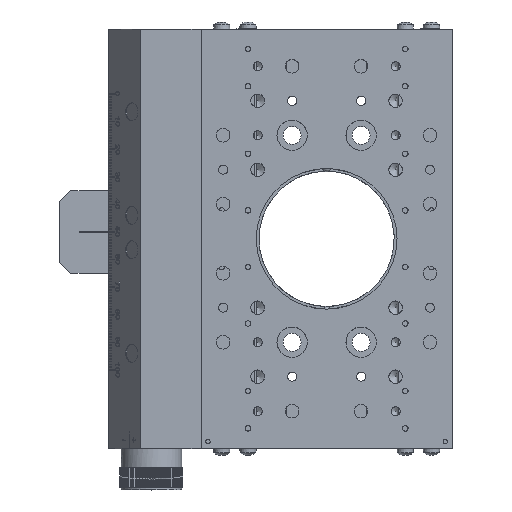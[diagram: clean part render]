
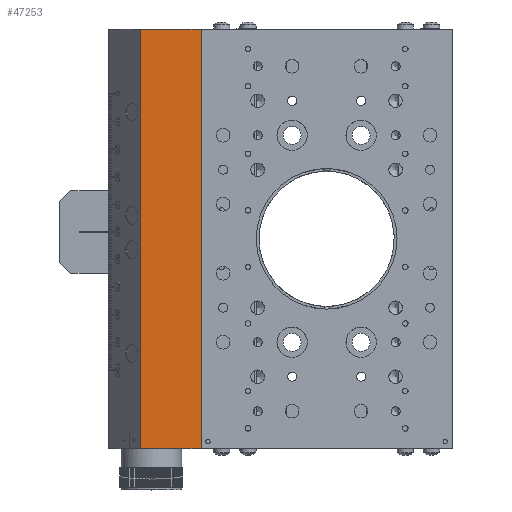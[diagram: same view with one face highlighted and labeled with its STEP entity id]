
A CAD part, top view. The second image highlights one B-rep face of the part: STEP entity #47253.
In plain terms, the highlighted planar face has unit normal (0, 0, 1).
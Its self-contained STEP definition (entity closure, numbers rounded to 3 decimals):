
#2500=LINE($,#65618,#6474);
#3869=LINE($,#73583,#7843);
#4739=LINE($,#75339,#8713);
#4740=LINE($,#75340,#8714);
#6474=VECTOR($,#53313,21.947);
#7843=VECTOR($,#56542,152.);
#8713=VECTOR($,#58306,21.947);
#8714=VECTOR($,#58307,152.);
#10748=PLANE($,#50173);
#13663=FACE_OUTER_BOUND($,#16397,.T.);
#16397=EDGE_LOOP($,(#38039,#38040,#38041,#38042));
#20416=VERTEX_POINT($,#65615);
#20417=VERTEX_POINT($,#65617);
#21904=VERTEX_POINT($,#73582);
#22343=VERTEX_POINT($,#75338);
#24943=EDGE_CURVE($,#20416,#20417,#2500,.T.);
#27113=EDGE_CURVE($,#20417,#21904,#3869,.T.);
#27983=EDGE_CURVE($,#22343,#21904,#4739,.T.);
#27984=EDGE_CURVE($,#22343,#20416,#4740,.T.);
#38039=ORIENTED_EDGE($,*,*,#27983,.T.);
#38040=ORIENTED_EDGE($,*,*,#27113,.F.);
#38041=ORIENTED_EDGE($,*,*,#24943,.F.);
#38042=ORIENTED_EDGE($,*,*,#27984,.F.);
#47253=ADVANCED_FACE($,(#13663),#10748,.T.);
#50173=AXIS2_PLACEMENT_3D($,#75337,#58304,#58305);
#53313=DIRECTION($,(-1.,0.,0.));
#56542=DIRECTION($,(0.,1.,0.));
#58304=DIRECTION('center_axis',(0.,0.,
1.));
#58305=DIRECTION('ref_axis',(0.,1.,0.));
#58306=DIRECTION($,(-1.,0.,0.));
#58307=DIRECTION($,(0.,-1.,0.));
#65615=CARTESIAN_POINT('',(-41.324,-152.,20.728));
#65617=CARTESIAN_POINT('',(-63.271,-152.,20.728));
#65618=CARTESIAN_POINT($,(-41.324,-152.,20.728));
#73582=CARTESIAN_POINT('',(-63.271,0.,20.728));
#73583=CARTESIAN_POINT($,(-63.271,-152.,20.728));
#75337=CARTESIAN_POINT('Origin',(-41.324,-152.,20.728));
#75338=CARTESIAN_POINT('',(-41.324,0.,20.728));
#75339=CARTESIAN_POINT($,(-41.324,0.,20.728));
#75340=CARTESIAN_POINT($,(-41.324,-152.,20.728));
